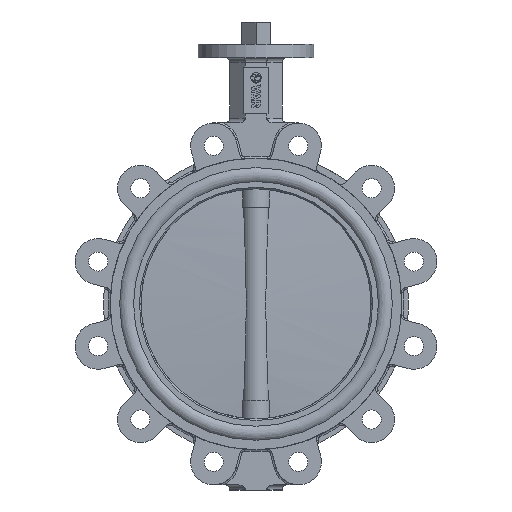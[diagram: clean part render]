
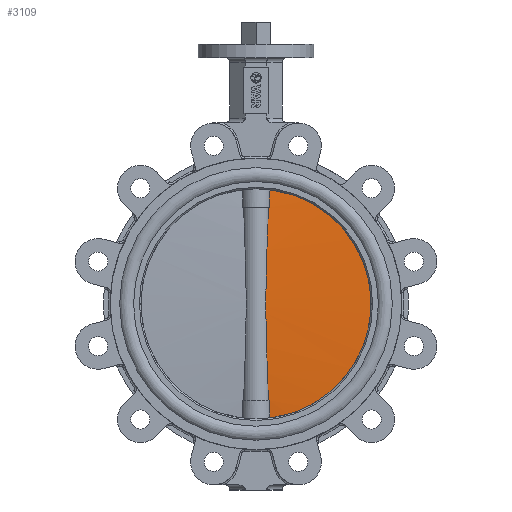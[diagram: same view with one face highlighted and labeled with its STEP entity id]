
A CAD part, left-side view. The second image highlights one B-rep face of the part: STEP entity #3109.
In plain terms, the highlighted spherical face has radius 1534.41 mm.
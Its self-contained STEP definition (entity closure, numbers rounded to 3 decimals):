
#3109=ADVANCED_FACE('',(#7924),#7926,.T.);
#7924=FACE_BOUND('',#7925,.T.);
#7925=EDGE_LOOP('',(#11960,#11961,#11962,#11963,#11964,#11965));
#7926=SPHERICAL_SURFACE('',#7927,1534.413);
#7927=AXIS2_PLACEMENT_3D('',#7928,#7929,#7930);
#7928=CARTESIAN_POINT('',(0.,-1523.413,0.));
#7929=DIRECTION('',(0.,-1.,0.));
#7930=DIRECTION('',(0.,0.,1.));
#11960=ORIENTED_EDGE('',*,*,#13676,.F.);
#11961=ORIENTED_EDGE('',*,*,#13680,.T.);
#11962=ORIENTED_EDGE('',*,*,#13663,.F.);
#11963=ORIENTED_EDGE('',*,*,#13694,.F.);
#11964=ORIENTED_EDGE('',*,*,#13695,.T.);
#11965=ORIENTED_EDGE('',*,*,#13696,.F.);
#13663=EDGE_CURVE('',#16492,#16494,#16495,.T.);
#13676=EDGE_CURVE('',#16518,#16520,#16521,.F.);
#13680=EDGE_CURVE('',#16518,#16494,#16526,.T.);
#13694=EDGE_CURVE('',#16545,#16492,#16547,.T.);
#13695=EDGE_CURVE('',#16545,#16548,#16549,.T.);
#13696=EDGE_CURVE('',#16520,#16548,#16550,.F.);
#16492=VERTEX_POINT('',#26020);
#16494=VERTEX_POINT('',#26025);
#16495=B_SPLINE_CURVE_WITH_KNOTS('',3,
(#26026,#26027,#26028,#26029,#26030,#26031,#26032,#26033),
.UNSPECIFIED.,.F.,.F.,
(4,1,1,1,1,4),
(0.,0.184,0.369,0.557,0.767,1.),
.UNSPECIFIED.);
#16518=VERTEX_POINT('',#26255);
#16520=VERTEX_POINT('',#26298);
#16521=B_SPLINE_CURVE_WITH_KNOTS('',3,
(#26299,#26300,#26301,#26302,#26303,#26304,#26305,#26306),
.UNSPECIFIED.,.F.,.F.,
(4,1,1,1,1,4),
(0.,0.184,0.369,0.557,0.767,1.),
.UNSPECIFIED.);
#16526=CIRCLE('',#26324,125.);
#16545=VERTEX_POINT('',#26426);
#16547=CIRCLE('',#26431,1530.837);
#16548=VERTEX_POINT('',#26435);
#16549=B_SPLINE_CURVE_WITH_KNOTS('',3,
(#26436,#26437,#26438,#26439,#26440,#26441,#26442,#26443,#26444,#26445,#26446,#26447,
#26448,#26449,#26450,#26451,#26452,#26453),
.UNSPECIFIED.,.F.,.F.,
(4,1,1,1,1,1,1,1,1,1,1,1,1,1,1,4),
(0.,0.05,0.1,0.15,0.199,0.247,
0.31,0.387,0.476,0.5,0.56,
0.648,0.739,0.836,0.923,1.),
.UNSPECIFIED.);
#16550=CIRCLE('',#26454,1530.837);
#26020=CARTESIAN_POINT('',(-14.27,7.358,104.688));
#26025=CARTESIAN_POINT('',(-14.932,5.9,124.105));
#26026=CARTESIAN_POINT('',(-14.27,7.358,104.688));
#26027=CARTESIAN_POINT('',(-14.312,7.276,105.88));
#26028=CARTESIAN_POINT('',(-14.396,7.109,108.272));
#26029=CARTESIAN_POINT('',(-14.522,6.849,111.875));
#26030=CARTESIAN_POINT('',(-14.652,6.567,115.648));
#26031=CARTESIAN_POINT('',(-14.789,6.252,119.728));
#26032=CARTESIAN_POINT('',(-14.883,6.023,122.597));
#26033=CARTESIAN_POINT('',(-14.932,5.9,124.105));
#26255=CARTESIAN_POINT('',(-14.932,5.9,-124.105));
#26298=CARTESIAN_POINT('',(-14.27,7.358,-104.688));
#26299=CARTESIAN_POINT('',(-14.27,7.358,-104.688));
#26300=CARTESIAN_POINT('',(-14.312,7.276,-105.88));
#26301=CARTESIAN_POINT('',(-14.396,7.109,-108.272));
#26302=CARTESIAN_POINT('',(-14.522,6.849,-111.875));
#26303=CARTESIAN_POINT('',(-14.652,6.567,-115.648));
#26304=CARTESIAN_POINT('',(-14.789,6.252,-119.728));
#26305=CARTESIAN_POINT('',(-14.883,6.023,-122.597));
#26306=CARTESIAN_POINT('',(-14.932,5.9,-124.105));
#26324=AXIS2_PLACEMENT_3D('',#26325,#26326,#26327);
#26325=CARTESIAN_POINT('',(0.,5.9,0.));
#26326=DIRECTION('',(0.,1.,0.));
#26327=DIRECTION('',(-0.119,0.,-0.993));
#26426=CARTESIAN_POINT('',(-13.483,7.365,104.688));
#26431=AXIS2_PLACEMENT_3D('',#26432,#26433,#26434);
#26432=CARTESIAN_POINT('',(0.,-1523.413,104.688));
#26433=DIRECTION('',(0.,0.,1.));
#26434=DIRECTION('',(-0.009,1.,0.));
#26435=CARTESIAN_POINT('',(-13.483,7.365,-104.687));
#26436=CARTESIAN_POINT('',(-13.483,7.365,104.687));
#26437=CARTESIAN_POINT('',(-13.352,7.606,101.186));
#26438=CARTESIAN_POINT('',(-13.086,8.061,94.205));
#26439=CARTESIAN_POINT('',(-12.689,8.671,83.767));
#26440=CARTESIAN_POINT('',(-12.306,9.205,73.422));
#26441=CARTESIAN_POINT('',(-11.948,9.664,63.172));
#26442=CARTESIAN_POINT('',(-11.59,10.09,51.992));
#26443=CARTESIAN_POINT('',(-11.229,10.49,38.855));
#26444=CARTESIAN_POINT('',(-10.906,10.823,22.9));
#26445=CARTESIAN_POINT('',(-10.778,10.949,9.62));
#26446=CARTESIAN_POINT('',(-10.757,10.969,-2.498));
#26447=CARTESIAN_POINT('',(-10.808,10.919,-14.53));
#26448=CARTESIAN_POINT('',(-11.048,10.68,-31.258));
#26449=CARTESIAN_POINT('',(-11.529,10.167,-50.516));
#26450=CARTESIAN_POINT('',(-12.163,9.408,-69.695));
#26451=CARTESIAN_POINT('',(-12.843,8.461,-87.865));
#26452=CARTESIAN_POINT('',(-13.281,7.736,-99.295));
#26453=CARTESIAN_POINT('',(-13.483,7.365,-104.687));
#26454=AXIS2_PLACEMENT_3D('',#26455,#26456,#26457);
#26455=CARTESIAN_POINT('',(0.,-1523.413,-104.688));
#26456=DIRECTION('',(0.,0.,1.));
#26457=DIRECTION('',(-0.009,1.,0.));
